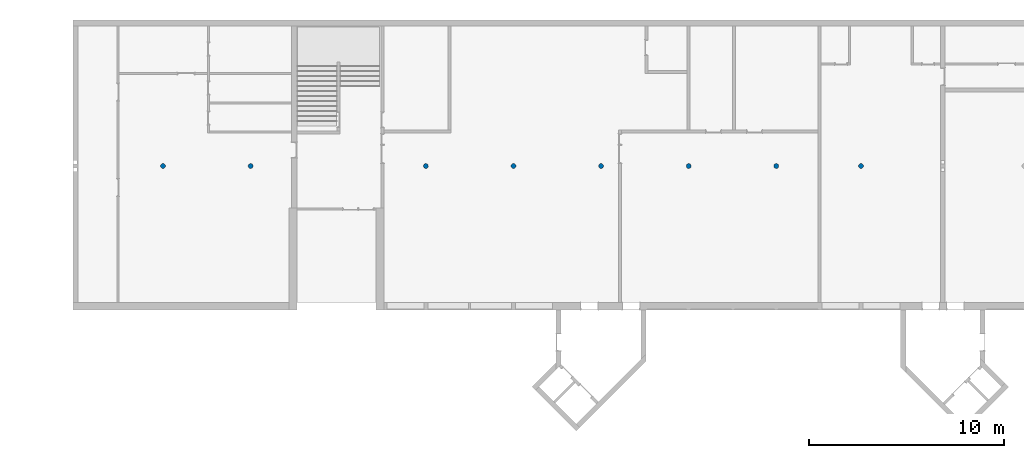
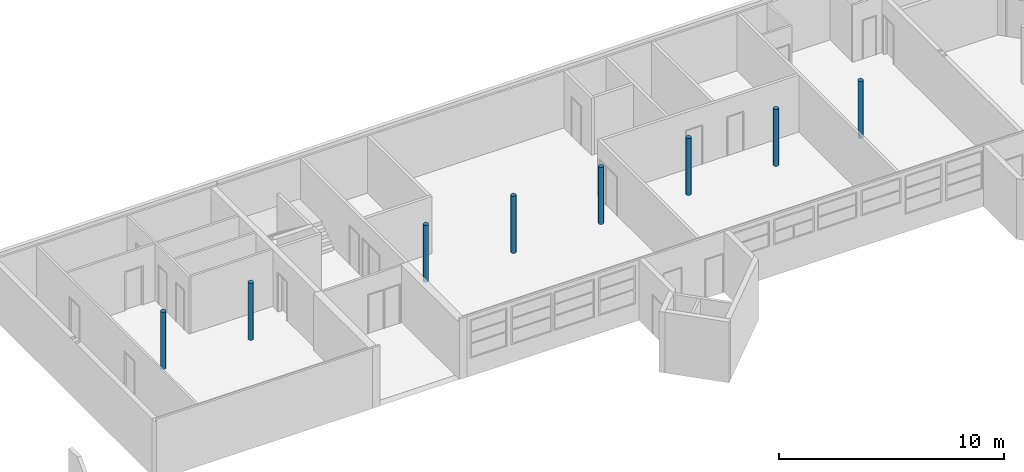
# One storey, part 5 of 25: 8 columns.
"""IFC2X3 building model written with IfcOpenShell, lengths in millimetres."""

import ifcopenshell
import ifcopenshell.guid

model = None  # the IFC model being written
_history = None  # IfcOwnerHistory: only IFC2X3 demands one
_inside = {}  # id of a spatial element -> (the spatial element, [elements in it])
_under = {}  # id of a project, library or spatial element -> (it, [spatial elements below it])
_declared = {}  # id of a project -> (the project, [libraries it declares])
_typed = {}  # id of a type object -> (the type object, [elements of that type])
_made_of = {}  # id of a material, layer set ... -> (it, [elements and type objects made of it])


def new_model(schema):
    """Start an empty IFC model of exactly this schema.

    Asked for "IFC4X3", IfcOpenShell would pick the latest addendum, in which some entities
    have other attributes; the version numbers below select the first issue.
    IFC2X3 requires an IfcOwnerHistory on every rooted entity: one is made here for all.
    """
    global model, _history
    if schema == "IFC4X3":
        model = ifcopenshell.file(schema_version=(4, 3, 0, 0))
    else:
        model = ifcopenshell.file(schema=schema)
    _inside.clear()
    _under.clear()
    _declared.clear()
    _typed.clear()
    _made_of.clear()
    _history = None
    if model.schema == "IFC2X3":
        org = make("IfcOrganization", Name="unknown")
        user = make(
            "IfcPersonAndOrganization",
            ThePerson=make("IfcPerson", FamilyName="unknown"),
            TheOrganization=org,
        )
        app = make(
            "IfcApplication",
            ApplicationDeveloper=org,
            Version="unknown",
            ApplicationFullName="unknown",
            ApplicationIdentifier="unknown",
        )
        _history = make(
            "IfcOwnerHistory",
            OwningUser=user,
            OwningApplication=app,
            ChangeAction="ADDED",
            CreationDate=0,
        )
    return model


def make(cls, **values):
    """One entity of the class cls with the attributes given. An attribute that is None is left unset."""
    return model.create_entity(
        cls, **{name: value for name, value in values.items() if value is not None}
    )


def entity(cls, *values):
    """Any entity or typed value of the class cls, its attributes in the order of the schema. None: left unset."""
    e = model.create_entity(cls)
    for i, value in enumerate(values):
        if value is not None:
            e[i] = value
    return e


def rooted(cls, **values):
    """An entity with a GlobalId (a new one), such as an element, a storey or a relation."""
    return make(cls, GlobalId=ifcopenshell.guid.new(), OwnerHistory=_history, **values)


def si_unit(unit_type, name, prefix=None):
    """IfcSIUnit, for example si_unit("LENGTHUNIT", "METRE", prefix="MILLI")."""
    return make("IfcSIUnit", UnitType=unit_type, Prefix=prefix, Name=name)


def converted_unit(unit_type, name, factor, base, dimensions=None, offset=None):
    """IfcConversionBasedUnit, such as the inch: factor (a typed value) times the base unit."""
    return make(
        "IfcConversionBasedUnit"
        if offset is None
        else "IfcConversionBasedUnitWithOffset",
        ConversionOffset=offset,
        Dimensions=None
        if dimensions is None
        else entity("IfcDimensionalExponents", *dimensions),
        UnitType=unit_type,
        Name=name,
        ConversionFactor=make(
            "IfcMeasureWithUnit", ValueComponent=factor, UnitComponent=base
        ),
    )


def derived_unit(unit_type, elements):
    """IfcDerivedUnit: a product of units, each with its exponent."""
    return make(
        "IfcDerivedUnit",
        Elements=[
            make("IfcDerivedUnitElement", Unit=unit, Exponent=power)
            for unit, power in elements
        ],
        UnitType=unit_type,
    )


def money_unit(currency):
    """IfcMonetaryUnit."""
    return make("IfcMonetaryUnit", Currency=currency)


def assignment(units):
    """IfcUnitAssignment: the units of a project."""
    return None if units is None else make("IfcUnitAssignment", Units=units)


def point(xyz):
    """IfcCartesianPoint."""
    return None if xyz is None else make("IfcCartesianPoint", Coordinates=xyz)


def direction(xyz):
    """IfcDirection."""
    return None if xyz is None else make("IfcDirection", DirectionRatios=xyz)


def frame(location, z_axis=None, x_axis=None):
    """IfcAxis2Placement3D, a coordinate frame: its origin and axes. An axis left out is left unset."""
    return make(
        "IfcAxis2Placement3D",
        Location=point(location),
        Axis=direction(z_axis),
        RefDirection=direction(x_axis),
    )


def origin_with_axes():
    """The frame at (0, 0, 0) with the z axis (0, 0, 1) and the x axis (1, 0, 0) written out."""
    return frame((0.0, 0.0, 0.0), z_axis=(0.0, 0.0, 1.0), x_axis=(1.0, 0.0, 0.0))


def place(relative_to, where):
    """IfcLocalPlacement: puts the frame where relative to a parent placement (None: the world)."""
    return make(
        "IfcLocalPlacement", PlacementRelTo=relative_to, RelativePlacement=where
    )


def context(
    kind, dimensions, precision=None, world=None, true_north=None, identifier=None
):
    """IfcGeometricRepresentationContext, for example the 3D "Model" context."""
    return make(
        "IfcGeometricRepresentationContext",
        ContextIdentifier=identifier,
        ContextType=kind,
        CoordinateSpaceDimension=dimensions,
        Precision=precision,
        WorldCoordinateSystem=world,
        TrueNorth=true_north,
    )


def subcontext(parent, identifier, kind, view, scale=None):
    """IfcGeometricRepresentationSubContext, for example "Body" below "Model"."""
    return make(
        "IfcGeometricRepresentationSubContext",
        ContextIdentifier=identifier,
        ContextType=kind,
        ParentContext=parent,
        TargetScale=scale,
        TargetView=view,
    )


def project(units=None, contexts=None):
    """IfcProject with its units and contexts."""
    return rooted(
        "IfcProject",
        Name="project",
        RepresentationContexts=contexts,
        UnitsInContext=assignment(units),
    )


def spatial(cls, under=None, at=None, **own):
    """A site, building, storey or space (cls), placed at a placement, below another one or the project."""
    s = rooted(cls, ObjectPlacement=at, **own)
    if under is not None:
        _under.setdefault(under.id(), (under, []))[1].append(s)
    return s


def faces_of(points, faces, orient=None, outer=None):
    """IfcFace entities. A face is a list of loops; a loop is a list of indices into points, from 0.

    orient and outer hold one flag for each loop. By default every Orientation is true, the
    first loop of a face is its IfcFaceOuterBound and the others are IfcFaceBound.
    """
    made = []
    for i, loops in enumerate(faces):
        bounds = []
        for j, loop in enumerate(loops):
            is_outer = j == 0 if outer is None else outer[i][j]
            bounds.append(
                make(
                    "IfcFaceOuterBound" if is_outer else "IfcFaceBound",
                    Bound=make("IfcPolyLoop", Polygon=[points[k] for k in loop]),
                    Orientation=True if orient is None else orient[i][j],
                )
            )
        made.append(make("IfcFace", Bounds=bounds))
    return made


def faceted_brep(points, faces, orient=None, outer=None, voids=None):
    """IfcFacetedBrep: a solid bounded by flat faces; with voids (closed shells), ...WithVoids."""
    shared = [point(p) for p in points]
    hull = make("IfcClosedShell", CfsFaces=faces_of(shared, faces, orient, outer))
    if voids is None:
        return make("IfcFacetedBrep", Outer=hull)
    return make(
        "IfcFacetedBrepWithVoids",
        Outer=hull,
        Voids=[
            make(cls, CfsFaces=faces_of(shared, fs, o, b)) for cls, fs, o, b in voids
        ],
    )


def shape(context_of_items, identifier, shape_type, items):
    """IfcShapeRepresentation: the items that make up one representation, for example the "Body"."""
    return make(
        "IfcShapeRepresentation",
        ContextOfItems=context_of_items,
        RepresentationIdentifier=identifier,
        RepresentationType=shape_type,
        Items=items,
    )


def material(Name=None, Category=None):
    """IfcMaterial."""
    return make("IfcMaterial", Name=Name, Category=Category)


def made_of(thing, what):
    """Note that an element or type object is made of a material, layer set ...; save() writes the relation."""
    if what is not None:
        _made_of.setdefault(what.id(), (what, []))[1].append(thing)
    return thing


def type_object(cls, material=None, **own):
    """A type object (cls), such as IfcWallType, which elements share."""
    return made_of(rooted(cls, **own), material)


def element(
    cls,
    number,
    at=None,
    inside=None,
    cuts=None,
    type_object=None,
    material=None,
    context=None,
    identifier="Body",
    shape_type=None,
    held_by="IfcProductDefinitionShape",
    body=None,
    shapes=None,
    **own,
):
    """One element of the class cls, such as IfcWall. Its Tag is "e" and its number.

    at: its placement. inside: the storey or other place that contains it. cuts: it is an
    opening in that element (IfcRelVoidsElement). A single representation is given by context,
    identifier, shape_type and body (its items); several are given by shapes. held_by: the class
    of the entity that holds the representations. save() writes the other relations.
    """
    e = rooted(cls, Tag="e%d" % number, ObjectPlacement=at, **own)
    if body is not None:
        shapes = [shape(context, identifier, shape_type, body)]
    if shapes is not None:
        e.Representation = make(held_by, Representations=shapes)
    if inside is not None:
        _inside.setdefault(inside.id(), (inside, []))[1].append(e)
    if cuts is not None:
        rooted(
            "IfcRelVoidsElement", RelatingBuildingElement=cuts, RelatedOpeningElement=e
        )
    if type_object is not None:
        _typed.setdefault(type_object.id(), (type_object, []))[1].append(e)
    return made_of(e, material)


def aggregate(whole, parts):
    """IfcRelAggregates: a whole, such as a stair, and the parts it consists of."""
    return rooted("IfcRelAggregates", RelatingObject=whole, RelatedObjects=parts)


def save(model, path):
    """Write the relations noted so far, then the file.

    IfcRelAggregates (storeys below a building ...), IfcRelContainedInSpatialStructure (elements
    in a storey), IfcRelDefinesByType, IfcRelAssociatesMaterial and IfcRelDeclares: one each for
    every whole, place, type object, material and project.
    """
    for whole, parts in _under.values():
        aggregate(whole, parts)
    for where, things in _inside.values():
        rooted(
            "IfcRelContainedInSpatialStructure",
            RelatedElements=things,
            RelatingStructure=where,
        )
    for kind, things in _typed.values():
        rooted("IfcRelDefinesByType", RelatedObjects=things, RelatingType=kind)
    for what, things in _made_of.values():
        rooted("IfcRelAssociatesMaterial", RelatedObjects=things, RelatingMaterial=what)
    for by, libraries in _declared.values():
        rooted("IfcRelDeclares", RelatingContext=by, RelatedDefinitions=libraries)
    model.write(path)


model = new_model("IFC2X3")

# Units and contexts
model_context = context("Model", 3, precision=0.01, world=origin_with_axes(), true_north=direction((0.0, 1.0)))
body_context = subcontext(model_context, "Body", "Model", "MODEL_VIEW")
ifc_project = project(units=[si_unit("LENGTHUNIT", "METRE", prefix="MILLI"), si_unit("AREAUNIT", "SQUARE_METRE"), si_unit("VOLUMEUNIT", "CUBIC_METRE"), converted_unit("PLANEANGLEUNIT", "DEGREE", entity("IfcPlaneAngleMeasure", 0.0174532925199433), si_unit("PLANEANGLEUNIT", "RADIAN"), dimensions=[0, 0, 0, 0, 0, 0, 0]), money_unit("USD"), converted_unit("TIMEUNIT", "Year", entity("IfcTimeMeasure", 31557600.0), si_unit("TIMEUNIT", "SECOND"), dimensions=[0, 0, 1, 0, 0, 0, 0]), si_unit("MASSUNIT", "GRAM", prefix="KILO"), si_unit("THERMODYNAMICTEMPERATUREUNIT", "DEGREE_CELSIUS"), si_unit("LUMINOUSINTENSITYUNIT", "LUMEN"), si_unit("ENERGYUNIT", "JOULE", prefix="MEGA"), derived_unit("THERMALCONDUCTANCEUNIT", [(si_unit("POWERUNIT", "WATT"), 1), (si_unit("LENGTHUNIT", "METRE"), -1), (si_unit("THERMODYNAMICTEMPERATUREUNIT", "KELVIN"), -1)]), derived_unit("SPECIFICHEATCAPACITYUNIT", [(si_unit("ENERGYUNIT", "JOULE"), 1), (si_unit("MASSUNIT", "GRAM", prefix="KILO"), -1), (si_unit("THERMODYNAMICTEMPERATUREUNIT", "KELVIN"), -1)]), derived_unit("MASSDENSITYUNIT", [(si_unit("MASSUNIT", "GRAM", prefix="KILO"), 1), (si_unit("VOLUMEUNIT", "CUBIC_METRE"), -1)])], contexts=[model_context])

# Site, building, storey
site_placement = place(None, origin_with_axes())
site = spatial("IfcSite", under=ifc_project, at=site_placement, Name="Site", CompositionType="ELEMENT")
building_placement = place(site_placement, origin_with_axes())
building = spatial("IfcBuilding", under=site, at=building_placement, Name="Building", CompositionType="ELEMENT")
storey_placement = place(building_placement, origin_with_axes())
storey = spatial("IfcBuildingStorey", under=building, at=storey_placement, Name="U ETG", CompositionType="ELEMENT", Elevation=0.0)

# Columns
ifc_material = material(Name="GENERIC - STRUCTURAL")
column_type = type_object("IfcColumnType", Name="GENERIC - STRUCTURAL D250", PredefinedType="COLUMN")
column_1_placement = place(storey_placement, frame((49349.99999999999, 14500.0, 0.0), z_axis=(0.0, 0.0, 1.0), x_axis=(1.0, 0.0, 0.0)))
element("IfcColumn", 1, at=column_1_placement, inside=storey, type_object=column_type, material=ifc_material, Name="CRE - 001", ObjectType="COLUMN", context=body_context, shape_type="Brep", body=[
    faceted_brep([(-121.86598902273, -27.81511674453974, 3100.0), (-125.0, 0.0, 3100.0), (-125.0, 0.0, 0.0), (-121.86598902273, -27.81511674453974, 0.0), (-112.6211084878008, 54.2354673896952, 3100.0), (-121.86598902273, 27.81511674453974, 3100.0), (-112.6211084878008, -54.2354673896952, 3100.0), (-97.72893530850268, -77.93622523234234, 3100.0), (-77.93622523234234, -97.72893530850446, 3100.0), (-54.2354673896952, -112.6211084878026, 3100.0), (-27.81511674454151, -121.8659890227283, 3100.0), (0.0, -125.0, 3100.0), (27.81511674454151, -121.8659890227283, 3100.0), (54.2354673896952, -112.6211084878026, 3100.0), (77.93622523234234, -97.72893530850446, 3100.0), (97.72893530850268, -77.93622523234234, 3100.0), (112.6211084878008, -54.2354673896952, 3100.0), (121.86598902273, -27.81511674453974, 3100.0), (125.0, 0.0, 3100.0), (121.86598902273, 27.81511674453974, 3100.0), (112.6211084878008, 54.2354673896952, 3100.0), (97.72893530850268, 77.93622523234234, 3100.0), (77.93622523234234, 97.72893530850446, 3100.0), (54.2354673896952, 112.6211084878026, 3100.0), (27.81511674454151, 121.8659890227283, 3100.0), (0.0, 125.0, 3100.0), (-27.81511674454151, 121.8659890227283, 3100.0), (-54.2354673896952, 112.6211084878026, 3100.0), (-77.93622523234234, 97.72893530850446, 3100.0), (-97.72893530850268, 77.93622523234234, 3100.0), (-121.86598902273, 27.81511674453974, 0.0), (-112.6211084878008, -54.2354673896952, 0.0), (-112.6211084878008, 54.2354673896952, 0.0), (-97.72893530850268, 77.93622523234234, 0.0), (-77.93622523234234, 97.72893530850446, 0.0), (-54.2354673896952, 112.6211084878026, 0.0), (-27.81511674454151, 121.8659890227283, 0.0), (0.0, 125.0, 0.0), (27.81511674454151, 121.8659890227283, 0.0), (54.2354673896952, 112.6211084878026, 0.0), (77.93622523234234, 97.72893530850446, 0.0), (97.72893530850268, 77.93622523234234, 0.0), (112.6211084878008, 54.2354673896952, 0.0), (121.86598902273, 27.81511674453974, 0.0), (125.0, 0.0, 0.0), (121.86598902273, -27.81511674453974, 0.0), (112.6211084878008, -54.2354673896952, 0.0), (97.72893530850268, -77.93622523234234, 0.0), (77.93622523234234, -97.72893530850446, 0.0), (54.2354673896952, -112.6211084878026, 0.0), (27.81511674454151, -121.8659890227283, 0.0), (0.0, -125.0, 0.0), (-27.81511674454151, -121.8659890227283, 0.0), (-54.2354673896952, -112.6211084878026, 0.0), (-77.93622523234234, -97.72893530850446, 0.0), (-97.72893530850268, -77.93622523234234, 0.0)], [[[0, 1, 2, 3]], [[4, 5, 1, 0, 6, 7, 8, 9, 10, 11, 12, 13, 14, 15, 16, 17, 18, 19, 20, 21, 22, 23, 24, 25, 26, 27, 28, 29]], [[1, 5, 30, 2]], [[31, 3, 2, 30, 32, 33, 34, 35, 36, 37, 38, 39, 40, 41, 42, 43, 44, 45, 46, 47, 48, 49, 50, 51, 52, 53, 54, 55]], [[6, 0, 3, 31]], [[5, 4, 32, 30]], [[7, 6, 31, 55]], [[8, 7, 55, 54]], [[9, 8, 54, 53]], [[10, 9, 53, 52]], [[11, 10, 52, 51]], [[12, 11, 51, 50]], [[13, 12, 50, 49]], [[14, 13, 49, 48]], [[15, 14, 48, 47]], [[16, 15, 47, 46]], [[17, 16, 46, 45]], [[18, 17, 45, 44]], [[19, 18, 44, 43]], [[20, 19, 43, 42]], [[21, 20, 42, 41]], [[22, 21, 41, 40]], [[23, 22, 40, 39]], [[24, 23, 39, 38]], [[25, 24, 38, 37]], [[26, 25, 37, 36]], [[27, 26, 36, 35]], [[28, 27, 35, 34]], [[29, 28, 34, 33]], [[4, 29, 33, 32]]]),
])
column_2_placement = place(storey_placement, frame((44999.99999999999, 14500.0, 0.0), z_axis=(0.0, 0.0, 1.0), x_axis=(1.0, 0.0, 0.0)))
element("IfcColumn", 2, at=column_2_placement, inside=storey, type_object=column_type, material=ifc_material, Name="CRE - 001", ObjectType="COLUMN", context=body_context, shape_type="Brep", body=[
    faceted_brep([(-121.86598902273, -27.81511674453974, 3100.0), (-125.0, 0.0, 3100.0), (-125.0, 0.0, 0.0), (-121.86598902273, -27.81511674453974, 0.0), (-112.6211084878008, 54.2354673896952, 3100.0), (-121.86598902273, 27.81511674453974, 3100.0), (-112.6211084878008, -54.2354673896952, 3100.0), (-97.72893530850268, -77.93622523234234, 3100.0), (-77.93622523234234, -97.72893530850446, 3100.0), (-54.2354673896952, -112.6211084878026, 3100.0), (-27.81511674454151, -121.8659890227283, 3100.0), (0.0, -125.0, 3100.0), (27.81511674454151, -121.8659890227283, 3100.0), (54.2354673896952, -112.6211084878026, 3100.0), (77.93622523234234, -97.72893530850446, 3100.0), (97.72893530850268, -77.93622523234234, 3100.0), (112.6211084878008, -54.2354673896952, 3100.0), (121.86598902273, -27.81511674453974, 3100.0), (125.0, 0.0, 3100.0), (121.86598902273, 27.81511674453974, 3100.0), (112.6211084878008, 54.2354673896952, 3100.0), (97.72893530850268, 77.93622523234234, 3100.0), (77.93622523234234, 97.72893530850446, 3100.0), (54.2354673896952, 112.6211084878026, 3100.0), (27.81511674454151, 121.8659890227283, 3100.0), (0.0, 125.0, 3100.0), (-27.81511674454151, 121.8659890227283, 3100.0), (-54.2354673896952, 112.6211084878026, 3100.0), (-77.93622523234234, 97.72893530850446, 3100.0), (-97.72893530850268, 77.93622523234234, 3100.0), (-121.86598902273, 27.81511674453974, 0.0), (-112.6211084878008, -54.2354673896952, 0.0), (-112.6211084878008, 54.2354673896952, 0.0), (-97.72893530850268, 77.93622523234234, 0.0), (-77.93622523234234, 97.72893530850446, 0.0), (-54.2354673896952, 112.6211084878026, 0.0), (-27.81511674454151, 121.8659890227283, 0.0), (0.0, 125.0, 0.0), (27.81511674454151, 121.8659890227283, 0.0), (54.2354673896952, 112.6211084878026, 0.0), (77.93622523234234, 97.72893530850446, 0.0), (97.72893530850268, 77.93622523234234, 0.0), (112.6211084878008, 54.2354673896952, 0.0), (121.86598902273, 27.81511674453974, 0.0), (125.0, 0.0, 0.0), (121.86598902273, -27.81511674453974, 0.0), (112.6211084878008, -54.2354673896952, 0.0), (97.72893530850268, -77.93622523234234, 0.0), (77.93622523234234, -97.72893530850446, 0.0), (54.2354673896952, -112.6211084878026, 0.0), (27.81511674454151, -121.8659890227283, 0.0), (0.0, -125.0, 0.0), (-27.81511674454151, -121.8659890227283, 0.0), (-54.2354673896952, -112.6211084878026, 0.0), (-77.93622523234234, -97.72893530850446, 0.0), (-97.72893530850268, -77.93622523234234, 0.0)], [[[0, 1, 2, 3]], [[4, 5, 1, 0, 6, 7, 8, 9, 10, 11, 12, 13, 14, 15, 16, 17, 18, 19, 20, 21, 22, 23, 24, 25, 26, 27, 28, 29]], [[1, 5, 30, 2]], [[31, 3, 2, 30, 32, 33, 34, 35, 36, 37, 38, 39, 40, 41, 42, 43, 44, 45, 46, 47, 48, 49, 50, 51, 52, 53, 54, 55]], [[6, 0, 3, 31]], [[5, 4, 32, 30]], [[7, 6, 31, 55]], [[8, 7, 55, 54]], [[9, 8, 54, 53]], [[10, 9, 53, 52]], [[11, 10, 52, 51]], [[12, 11, 51, 50]], [[13, 12, 50, 49]], [[14, 13, 49, 48]], [[15, 14, 48, 47]], [[16, 15, 47, 46]], [[17, 16, 46, 45]], [[18, 17, 45, 44]], [[19, 18, 44, 43]], [[20, 19, 43, 42]], [[21, 20, 42, 41]], [[22, 21, 41, 40]], [[23, 22, 40, 39]], [[24, 23, 39, 38]], [[25, 24, 38, 37]], [[26, 25, 37, 36]], [[27, 26, 36, 35]], [[28, 27, 35, 34]], [[29, 28, 34, 33]], [[4, 29, 33, 32]]]),
])
column_3_placement = place(storey_placement, frame((40500.0, 14500.0, 0.0), z_axis=(0.0, 0.0, 1.0), x_axis=(1.0, 0.0, 0.0)))
element("IfcColumn", 3, at=column_3_placement, inside=storey, type_object=column_type, material=ifc_material, Name="CRE - 001", ObjectType="COLUMN", context=body_context, shape_type="Brep", body=[
    faceted_brep([(-121.86598902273, -27.81511674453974, 3100.0), (-125.0, 0.0, 3100.0), (-125.0, 0.0, 0.0), (-121.86598902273, -27.81511674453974, 0.0), (-112.6211084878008, 54.2354673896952, 3100.0), (-121.86598902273, 27.81511674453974, 3100.0), (-112.6211084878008, -54.2354673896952, 3100.0), (-97.72893530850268, -77.93622523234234, 3100.0), (-77.93622523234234, -97.72893530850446, 3100.0), (-54.2354673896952, -112.6211084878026, 3100.0), (-27.81511674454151, -121.8659890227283, 3100.0), (0.0, -125.0, 3100.0), (27.81511674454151, -121.8659890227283, 3100.0), (54.2354673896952, -112.6211084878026, 3100.0), (77.93622523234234, -97.72893530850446, 3100.0), (97.72893530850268, -77.93622523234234, 3100.0), (112.6211084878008, -54.2354673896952, 3100.0), (121.86598902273, -27.81511674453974, 3100.0), (125.0, 0.0, 3100.0), (121.86598902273, 27.81511674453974, 3100.0), (112.6211084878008, 54.2354673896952, 3100.0), (97.72893530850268, 77.93622523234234, 3100.0), (77.93622523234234, 97.72893530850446, 3100.0), (54.2354673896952, 112.6211084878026, 3100.0), (27.81511674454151, 121.8659890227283, 3100.0), (0.0, 125.0, 3100.0), (-27.81511674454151, 121.8659890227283, 3100.0), (-54.2354673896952, 112.6211084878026, 3100.0), (-77.93622523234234, 97.72893530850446, 3100.0), (-97.72893530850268, 77.93622523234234, 3100.0), (-121.86598902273, 27.81511674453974, 0.0), (-112.6211084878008, -54.2354673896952, 0.0), (-112.6211084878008, 54.2354673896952, 0.0), (-97.72893530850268, 77.93622523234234, 0.0), (-77.93622523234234, 97.72893530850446, 0.0), (-54.2354673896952, 112.6211084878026, 0.0), (-27.81511674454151, 121.8659890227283, 0.0), (0.0, 125.0, 0.0), (27.81511674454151, 121.8659890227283, 0.0), (54.2354673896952, 112.6211084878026, 0.0), (77.93622523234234, 97.72893530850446, 0.0), (97.72893530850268, 77.93622523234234, 0.0), (112.6211084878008, 54.2354673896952, 0.0), (121.86598902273, 27.81511674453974, 0.0), (125.0, 0.0, 0.0), (121.86598902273, -27.81511674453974, 0.0), (112.6211084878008, -54.2354673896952, 0.0), (97.72893530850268, -77.93622523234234, 0.0), (77.93622523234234, -97.72893530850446, 0.0), (54.2354673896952, -112.6211084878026, 0.0), (27.81511674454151, -121.8659890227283, 0.0), (0.0, -125.0, 0.0), (-27.81511674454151, -121.8659890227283, 0.0), (-54.2354673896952, -112.6211084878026, 0.0), (-77.93622523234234, -97.72893530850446, 0.0), (-97.72893530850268, -77.93622523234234, 0.0)], [[[0, 1, 2, 3]], [[4, 5, 1, 0, 6, 7, 8, 9, 10, 11, 12, 13, 14, 15, 16, 17, 18, 19, 20, 21, 22, 23, 24, 25, 26, 27, 28, 29]], [[1, 5, 30, 2]], [[31, 3, 2, 30, 32, 33, 34, 35, 36, 37, 38, 39, 40, 41, 42, 43, 44, 45, 46, 47, 48, 49, 50, 51, 52, 53, 54, 55]], [[6, 0, 3, 31]], [[5, 4, 32, 30]], [[7, 6, 31, 55]], [[8, 7, 55, 54]], [[9, 8, 54, 53]], [[10, 9, 53, 52]], [[11, 10, 52, 51]], [[12, 11, 51, 50]], [[13, 12, 50, 49]], [[14, 13, 49, 48]], [[15, 14, 48, 47]], [[16, 15, 47, 46]], [[17, 16, 46, 45]], [[18, 17, 45, 44]], [[19, 18, 44, 43]], [[20, 19, 43, 42]], [[21, 20, 42, 41]], [[22, 21, 41, 40]], [[23, 22, 40, 39]], [[24, 23, 39, 38]], [[25, 24, 38, 37]], [[26, 25, 37, 36]], [[27, 26, 36, 35]], [[28, 27, 35, 34]], [[29, 28, 34, 33]], [[4, 29, 33, 32]]]),
])
column_4_placement = place(storey_placement, frame((36000.0, 14500.0, 0.0), z_axis=(0.0, 0.0, 1.0), x_axis=(1.0, 0.0, 0.0)))
element("IfcColumn", 4, at=column_4_placement, inside=storey, type_object=column_type, material=ifc_material, Name="CRE - 001", ObjectType="COLUMN", context=body_context, shape_type="Brep", body=[
    faceted_brep([(-121.86598902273, -27.81511674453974, 3100.0), (-125.0, 0.0, 3100.0), (-125.0, 0.0, 0.0), (-121.86598902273, -27.81511674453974, 0.0), (-112.6211084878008, 54.2354673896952, 3100.0), (-121.86598902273, 27.81511674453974, 3100.0), (-112.6211084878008, -54.2354673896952, 3100.0), (-97.72893530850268, -77.93622523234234, 3100.0), (-77.93622523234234, -97.72893530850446, 3100.0), (-54.2354673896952, -112.6211084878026, 3100.0), (-27.81511674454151, -121.8659890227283, 3100.0), (0.0, -125.0, 3100.0), (27.81511674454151, -121.8659890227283, 3100.0), (54.2354673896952, -112.6211084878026, 3100.0), (77.93622523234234, -97.72893530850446, 3100.0), (97.72893530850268, -77.93622523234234, 3100.0), (112.6211084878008, -54.2354673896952, 3100.0), (121.86598902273, -27.81511674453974, 3100.0), (125.0, 0.0, 3100.0), (121.86598902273, 27.81511674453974, 3100.0), (112.6211084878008, 54.2354673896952, 3100.0), (97.72893530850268, 77.93622523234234, 3100.0), (77.93622523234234, 97.72893530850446, 3100.0), (54.2354673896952, 112.6211084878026, 3100.0), (27.81511674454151, 121.8659890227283, 3100.0), (0.0, 125.0, 3100.0), (-27.81511674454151, 121.8659890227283, 3100.0), (-54.2354673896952, 112.6211084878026, 3100.0), (-77.93622523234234, 97.72893530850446, 3100.0), (-97.72893530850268, 77.93622523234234, 3100.0), (-121.86598902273, 27.81511674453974, 0.0), (-112.6211084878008, -54.2354673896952, 0.0), (-112.6211084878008, 54.2354673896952, 0.0), (-97.72893530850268, 77.93622523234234, 0.0), (-77.93622523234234, 97.72893530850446, 0.0), (-54.2354673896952, 112.6211084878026, 0.0), (-27.81511674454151, 121.8659890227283, 0.0), (0.0, 125.0, 0.0), (27.81511674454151, 121.8659890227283, 0.0), (54.2354673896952, 112.6211084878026, 0.0), (77.93622523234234, 97.72893530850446, 0.0), (97.72893530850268, 77.93622523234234, 0.0), (112.6211084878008, 54.2354673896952, 0.0), (121.86598902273, 27.81511674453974, 0.0), (125.0, 0.0, 0.0), (121.86598902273, -27.81511674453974, 0.0), (112.6211084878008, -54.2354673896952, 0.0), (97.72893530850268, -77.93622523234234, 0.0), (77.93622523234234, -97.72893530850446, 0.0), (54.2354673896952, -112.6211084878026, 0.0), (27.81511674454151, -121.8659890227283, 0.0), (0.0, -125.0, 0.0), (-27.81511674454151, -121.8659890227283, 0.0), (-54.2354673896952, -112.6211084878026, 0.0), (-77.93622523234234, -97.72893530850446, 0.0), (-97.72893530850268, -77.93622523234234, 0.0)], [[[0, 1, 2, 3]], [[4, 5, 1, 0, 6, 7, 8, 9, 10, 11, 12, 13, 14, 15, 16, 17, 18, 19, 20, 21, 22, 23, 24, 25, 26, 27, 28, 29]], [[1, 5, 30, 2]], [[31, 3, 2, 30, 32, 33, 34, 35, 36, 37, 38, 39, 40, 41, 42, 43, 44, 45, 46, 47, 48, 49, 50, 51, 52, 53, 54, 55]], [[6, 0, 3, 31]], [[5, 4, 32, 30]], [[7, 6, 31, 55]], [[8, 7, 55, 54]], [[9, 8, 54, 53]], [[10, 9, 53, 52]], [[11, 10, 52, 51]], [[12, 11, 51, 50]], [[13, 12, 50, 49]], [[14, 13, 49, 48]], [[15, 14, 48, 47]], [[16, 15, 47, 46]], [[17, 16, 46, 45]], [[18, 17, 45, 44]], [[19, 18, 44, 43]], [[20, 19, 43, 42]], [[21, 20, 42, 41]], [[22, 21, 41, 40]], [[23, 22, 40, 39]], [[24, 23, 39, 38]], [[25, 24, 38, 37]], [[26, 25, 37, 36]], [[27, 26, 36, 35]], [[28, 27, 35, 34]], [[29, 28, 34, 33]], [[4, 29, 33, 32]]]),
])
column_5_placement = place(storey_placement, frame((31500.0, 14500.0, 0.0), z_axis=(0.0, 0.0, 1.0), x_axis=(1.0, 0.0, 0.0)))
element("IfcColumn", 5, at=column_5_placement, inside=storey, type_object=column_type, material=ifc_material, Name="CRE - 001", ObjectType="COLUMN", context=body_context, shape_type="Brep", body=[
    faceted_brep([(-121.8659890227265, -27.81511674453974, 3100.0), (-125.0, 0.0, 3100.0), (-125.0, 0.0, 0.0), (-121.8659890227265, -27.81511674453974, 0.0), (-112.6211084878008, 54.2354673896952, 3100.0), (-121.8659890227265, 27.81511674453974, 3100.0), (-112.6211084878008, -54.2354673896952, 3100.0), (-97.72893530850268, -77.93622523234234, 3100.0), (-77.93622523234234, -97.72893530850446, 3100.0), (-54.2354673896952, -112.6211084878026, 3100.0), (-27.81511674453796, -121.8659890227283, 3100.0), (0.0, -125.0, 3100.0), (27.81511674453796, -121.8659890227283, 3100.0), (54.2354673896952, -112.6211084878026, 3100.0), (77.93622523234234, -97.72893530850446, 3100.0), (97.72893530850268, -77.93622523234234, 3100.0), (112.6211084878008, -54.2354673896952, 3100.0), (121.8659890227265, -27.81511674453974, 3100.0), (125.0, 0.0, 3100.0), (121.8659890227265, 27.81511674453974, 3100.0), (112.6211084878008, 54.2354673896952, 3100.0), (97.72893530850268, 77.93622523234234, 3100.0), (77.93622523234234, 97.72893530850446, 3100.0), (54.2354673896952, 112.6211084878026, 3100.0), (27.81511674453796, 121.8659890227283, 3100.0), (0.0, 125.0, 3100.0), (-27.81511674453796, 121.8659890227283, 3100.0), (-54.2354673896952, 112.6211084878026, 3100.0), (-77.93622523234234, 97.72893530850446, 3100.0), (-97.72893530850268, 77.93622523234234, 3100.0), (-121.8659890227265, 27.81511674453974, 0.0), (-112.6211084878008, -54.2354673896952, 0.0), (-112.6211084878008, 54.2354673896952, 0.0), (-97.72893530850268, 77.93622523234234, 0.0), (-77.93622523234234, 97.72893530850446, 0.0), (-54.2354673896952, 112.6211084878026, 0.0), (-27.81511674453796, 121.8659890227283, 0.0), (0.0, 125.0, 0.0), (27.81511674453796, 121.8659890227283, 0.0), (54.2354673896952, 112.6211084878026, 0.0), (77.93622523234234, 97.72893530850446, 0.0), (97.72893530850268, 77.93622523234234, 0.0), (112.6211084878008, 54.2354673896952, 0.0), (121.8659890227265, 27.81511674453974, 0.0), (125.0, 0.0, 0.0), (121.8659890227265, -27.81511674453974, 0.0), (112.6211084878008, -54.2354673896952, 0.0), (97.72893530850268, -77.93622523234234, 0.0), (77.93622523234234, -97.72893530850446, 0.0), (54.2354673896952, -112.6211084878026, 0.0), (27.81511674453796, -121.8659890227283, 0.0), (0.0, -125.0, 0.0), (-27.81511674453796, -121.8659890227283, 0.0), (-54.2354673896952, -112.6211084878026, 0.0), (-77.93622523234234, -97.72893530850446, 0.0), (-97.72893530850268, -77.93622523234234, 0.0)], [[[0, 1, 2, 3]], [[4, 5, 1, 0, 6, 7, 8, 9, 10, 11, 12, 13, 14, 15, 16, 17, 18, 19, 20, 21, 22, 23, 24, 25, 26, 27, 28, 29]], [[1, 5, 30, 2]], [[31, 3, 2, 30, 32, 33, 34, 35, 36, 37, 38, 39, 40, 41, 42, 43, 44, 45, 46, 47, 48, 49, 50, 51, 52, 53, 54, 55]], [[6, 0, 3, 31]], [[5, 4, 32, 30]], [[7, 6, 31, 55]], [[8, 7, 55, 54]], [[9, 8, 54, 53]], [[10, 9, 53, 52]], [[11, 10, 52, 51]], [[12, 11, 51, 50]], [[13, 12, 50, 49]], [[14, 13, 49, 48]], [[15, 14, 48, 47]], [[16, 15, 47, 46]], [[17, 16, 46, 45]], [[18, 17, 45, 44]], [[19, 18, 44, 43]], [[20, 19, 43, 42]], [[21, 20, 42, 41]], [[22, 21, 41, 40]], [[23, 22, 40, 39]], [[24, 23, 39, 38]], [[25, 24, 38, 37]], [[26, 25, 37, 36]], [[27, 26, 36, 35]], [[28, 27, 35, 34]], [[29, 28, 34, 33]], [[4, 29, 33, 32]]]),
])
column_6_placement = place(storey_placement, frame((27000.0, 14500.0, 0.0), z_axis=(0.0, 0.0, 1.0), x_axis=(1.0, 0.0, 0.0)))
element("IfcColumn", 6, at=column_6_placement, inside=storey, type_object=column_type, material=ifc_material, Name="CRE - 001", ObjectType="COLUMN", context=body_context, shape_type="Brep", body=[
    faceted_brep([(-121.8659890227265, -27.81511674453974, 3100.0), (-125.0, 0.0, 3100.0), (-125.0, 0.0, 0.0), (-121.8659890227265, -27.81511674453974, 0.0), (-112.6211084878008, 54.2354673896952, 3100.0), (-121.8659890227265, 27.81511674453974, 3100.0), (-112.6211084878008, -54.2354673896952, 3100.0), (-97.72893530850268, -77.93622523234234, 3100.0), (-77.93622523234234, -97.72893530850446, 3100.0), (-54.2354673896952, -112.6211084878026, 3100.0), (-27.81511674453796, -121.8659890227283, 3100.0), (0.0, -125.0, 3100.0), (27.81511674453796, -121.8659890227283, 3100.0), (54.2354673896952, -112.6211084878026, 3100.0), (77.93622523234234, -97.72893530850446, 3100.0), (97.72893530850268, -77.93622523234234, 3100.0), (112.6211084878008, -54.2354673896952, 3100.0), (121.8659890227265, -27.81511674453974, 3100.0), (125.0, 0.0, 3100.0), (121.8659890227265, 27.81511674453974, 3100.0), (112.6211084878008, 54.2354673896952, 3100.0), (97.72893530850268, 77.93622523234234, 3100.0), (77.93622523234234, 97.72893530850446, 3100.0), (54.2354673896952, 112.6211084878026, 3100.0), (27.81511674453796, 121.8659890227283, 3100.0), (0.0, 125.0, 3100.0), (-27.81511674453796, 121.8659890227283, 3100.0), (-54.2354673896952, 112.6211084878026, 3100.0), (-77.93622523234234, 97.72893530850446, 3100.0), (-97.72893530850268, 77.93622523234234, 3100.0), (-121.8659890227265, 27.81511674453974, 0.0), (-112.6211084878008, -54.2354673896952, 0.0), (-112.6211084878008, 54.2354673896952, 0.0), (-97.72893530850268, 77.93622523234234, 0.0), (-77.93622523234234, 97.72893530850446, 0.0), (-54.2354673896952, 112.6211084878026, 0.0), (-27.81511674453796, 121.8659890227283, 0.0), (0.0, 125.0, 0.0), (27.81511674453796, 121.8659890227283, 0.0), (54.2354673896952, 112.6211084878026, 0.0), (77.93622523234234, 97.72893530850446, 0.0), (97.72893530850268, 77.93622523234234, 0.0), (112.6211084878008, 54.2354673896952, 0.0), (121.8659890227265, 27.81511674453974, 0.0), (125.0, 0.0, 0.0), (121.8659890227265, -27.81511674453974, 0.0), (112.6211084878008, -54.2354673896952, 0.0), (97.72893530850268, -77.93622523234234, 0.0), (77.93622523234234, -97.72893530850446, 0.0), (54.2354673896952, -112.6211084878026, 0.0), (27.81511674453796, -121.8659890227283, 0.0), (0.0, -125.0, 0.0), (-27.81511674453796, -121.8659890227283, 0.0), (-54.2354673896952, -112.6211084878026, 0.0), (-77.93622523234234, -97.72893530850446, 0.0), (-97.72893530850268, -77.93622523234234, 0.0)], [[[0, 1, 2, 3]], [[4, 5, 1, 0, 6, 7, 8, 9, 10, 11, 12, 13, 14, 15, 16, 17, 18, 19, 20, 21, 22, 23, 24, 25, 26, 27, 28, 29]], [[1, 5, 30, 2]], [[31, 3, 2, 30, 32, 33, 34, 35, 36, 37, 38, 39, 40, 41, 42, 43, 44, 45, 46, 47, 48, 49, 50, 51, 52, 53, 54, 55]], [[6, 0, 3, 31]], [[5, 4, 32, 30]], [[7, 6, 31, 55]], [[8, 7, 55, 54]], [[9, 8, 54, 53]], [[10, 9, 53, 52]], [[11, 10, 52, 51]], [[12, 11, 51, 50]], [[13, 12, 50, 49]], [[14, 13, 49, 48]], [[15, 14, 48, 47]], [[16, 15, 47, 46]], [[17, 16, 46, 45]], [[18, 17, 45, 44]], [[19, 18, 44, 43]], [[20, 19, 43, 42]], [[21, 20, 42, 41]], [[22, 21, 41, 40]], [[23, 22, 40, 39]], [[24, 23, 39, 38]], [[25, 24, 38, 37]], [[26, 25, 37, 36]], [[27, 26, 36, 35]], [[28, 27, 35, 34]], [[29, 28, 34, 33]], [[4, 29, 33, 32]]]),
])
column_7_placement = place(storey_placement, frame((18000.00000000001, 14500.0, 0.0), z_axis=(0.0, 0.0, 1.0), x_axis=(1.0, 0.0, 0.0)))
element("IfcColumn", 7, at=column_7_placement, inside=storey, type_object=column_type, material=ifc_material, Name="CRE - 001", ObjectType="COLUMN", context=body_context, shape_type="Brep", body=[
    faceted_brep([(-121.8659890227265, -27.81511674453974, 3100.0), (-125.0, 0.0, 3100.0), (-125.0, 0.0, 0.0), (-121.8659890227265, -27.81511674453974, 0.0), (-112.6211084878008, 54.2354673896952, 3100.0), (-121.8659890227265, 27.81511674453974, 3100.0), (-112.6211084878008, -54.2354673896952, 3100.0), (-97.72893530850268, -77.93622523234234, 3100.0), (-77.93622523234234, -97.72893530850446, 3100.0), (-54.2354673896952, -112.6211084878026, 3100.0), (-27.81511674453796, -121.8659890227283, 3100.0), (0.0, -125.0, 3100.0), (27.81511674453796, -121.8659890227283, 3100.0), (54.2354673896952, -112.6211084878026, 3100.0), (77.93622523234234, -97.72893530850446, 3100.0), (97.72893530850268, -77.93622523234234, 3100.0), (112.6211084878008, -54.2354673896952, 3100.0), (121.8659890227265, -27.81511674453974, 3100.0), (125.0, 0.0, 3100.0), (121.8659890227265, 27.81511674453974, 3100.0), (112.6211084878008, 54.2354673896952, 3100.0), (97.72893530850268, 77.93622523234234, 3100.0), (77.93622523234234, 97.72893530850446, 3100.0), (54.2354673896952, 112.6211084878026, 3100.0), (27.81511674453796, 121.8659890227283, 3100.0), (0.0, 125.0, 3100.0), (-27.81511674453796, 121.8659890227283, 3100.0), (-54.2354673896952, 112.6211084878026, 3100.0), (-77.93622523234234, 97.72893530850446, 3100.0), (-97.72893530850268, 77.93622523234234, 3100.0), (-121.8659890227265, 27.81511674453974, 0.0), (-112.6211084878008, -54.2354673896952, 0.0), (-112.6211084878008, 54.2354673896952, 0.0), (-97.72893530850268, 77.93622523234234, 0.0), (-77.93622523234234, 97.72893530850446, 0.0), (-54.2354673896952, 112.6211084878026, 0.0), (-27.81511674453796, 121.8659890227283, 0.0), (0.0, 125.0, 0.0), (27.81511674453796, 121.8659890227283, 0.0), (54.2354673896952, 112.6211084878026, 0.0), (77.93622523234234, 97.72893530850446, 0.0), (97.72893530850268, 77.93622523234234, 0.0), (112.6211084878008, 54.2354673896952, 0.0), (121.8659890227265, 27.81511674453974, 0.0), (125.0, 0.0, 0.0), (121.8659890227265, -27.81511674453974, 0.0), (112.6211084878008, -54.2354673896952, 0.0), (97.72893530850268, -77.93622523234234, 0.0), (77.93622523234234, -97.72893530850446, 0.0), (54.2354673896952, -112.6211084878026, 0.0), (27.81511674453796, -121.8659890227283, 0.0), (0.0, -125.0, 0.0), (-27.81511674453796, -121.8659890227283, 0.0), (-54.2354673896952, -112.6211084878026, 0.0), (-77.93622523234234, -97.72893530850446, 0.0), (-97.72893530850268, -77.93622523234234, 0.0)], [[[0, 1, 2, 3]], [[4, 5, 1, 0, 6, 7, 8, 9, 10, 11, 12, 13, 14, 15, 16, 17, 18, 19, 20, 21, 22, 23, 24, 25, 26, 27, 28, 29]], [[1, 5, 30, 2]], [[31, 3, 2, 30, 32, 33, 34, 35, 36, 37, 38, 39, 40, 41, 42, 43, 44, 45, 46, 47, 48, 49, 50, 51, 52, 53, 54, 55]], [[6, 0, 3, 31]], [[5, 4, 32, 30]], [[7, 6, 31, 55]], [[8, 7, 55, 54]], [[9, 8, 54, 53]], [[10, 9, 53, 52]], [[11, 10, 52, 51]], [[12, 11, 51, 50]], [[13, 12, 50, 49]], [[14, 13, 49, 48]], [[15, 14, 48, 47]], [[16, 15, 47, 46]], [[17, 16, 46, 45]], [[18, 17, 45, 44]], [[19, 18, 44, 43]], [[20, 19, 43, 42]], [[21, 20, 42, 41]], [[22, 21, 41, 40]], [[23, 22, 40, 39]], [[24, 23, 39, 38]], [[25, 24, 38, 37]], [[26, 25, 37, 36]], [[27, 26, 36, 35]], [[28, 27, 35, 34]], [[29, 28, 34, 33]], [[4, 29, 33, 32]]]),
])
column_8_placement = place(storey_placement, frame((13500.00000000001, 14500.0, 0.0), z_axis=(0.0, 0.0, 1.0), x_axis=(1.0, 0.0, 0.0)))
element("IfcColumn", 8, at=column_8_placement, inside=storey, type_object=column_type, material=ifc_material, Name="CRE - 001", ObjectType="COLUMN", context=body_context, shape_type="Brep", body=[
    faceted_brep([(-121.86598902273, -27.81511674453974, 3100.0), (-125.0, 0.0, 3100.0), (-125.0, 0.0, 0.0), (-121.86598902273, -27.81511674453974, 0.0), (-112.6211084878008, 54.2354673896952, 3100.0), (-121.86598902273, 27.81511674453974, 3100.0), (-112.6211084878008, -54.2354673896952, 3100.0), (-97.72893530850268, -77.93622523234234, 3100.0), (-77.93622523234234, -97.72893530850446, 3100.0), (-54.2354673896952, -112.6211084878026, 3100.0), (-27.81511674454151, -121.8659890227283, 3100.0), (0.0, -125.0, 3100.0), (27.81511674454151, -121.8659890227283, 3100.0), (54.2354673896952, -112.6211084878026, 3100.0), (77.93622523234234, -97.72893530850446, 3100.0), (97.72893530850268, -77.93622523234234, 3100.0), (112.6211084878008, -54.2354673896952, 3100.0), (121.86598902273, -27.81511674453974, 3100.0), (125.0, 0.0, 3100.0), (121.86598902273, 27.81511674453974, 3100.0), (112.6211084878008, 54.2354673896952, 3100.0), (97.72893530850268, 77.93622523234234, 3100.0), (77.93622523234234, 97.72893530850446, 3100.0), (54.2354673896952, 112.6211084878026, 3100.0), (27.81511674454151, 121.8659890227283, 3100.0), (0.0, 125.0, 3100.0), (-27.81511674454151, 121.8659890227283, 3100.0), (-54.2354673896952, 112.6211084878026, 3100.0), (-77.93622523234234, 97.72893530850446, 3100.0), (-97.72893530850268, 77.93622523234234, 3100.0), (-121.86598902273, 27.81511674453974, 0.0), (-112.6211084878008, -54.2354673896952, 0.0), (-112.6211084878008, 54.2354673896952, 0.0), (-97.72893530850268, 77.93622523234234, 0.0), (-77.93622523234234, 97.72893530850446, 0.0), (-54.2354673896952, 112.6211084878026, 0.0), (-27.81511674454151, 121.8659890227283, 0.0), (0.0, 125.0, 0.0), (27.81511674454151, 121.8659890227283, 0.0), (54.2354673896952, 112.6211084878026, 0.0), (77.93622523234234, 97.72893530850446, 0.0), (97.72893530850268, 77.93622523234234, 0.0), (112.6211084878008, 54.2354673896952, 0.0), (121.86598902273, 27.81511674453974, 0.0), (125.0, 0.0, 0.0), (121.86598902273, -27.81511674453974, 0.0), (112.6211084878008, -54.2354673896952, 0.0), (97.72893530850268, -77.93622523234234, 0.0), (77.93622523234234, -97.72893530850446, 0.0), (54.2354673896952, -112.6211084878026, 0.0), (27.81511674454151, -121.8659890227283, 0.0), (0.0, -125.0, 0.0), (-27.81511674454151, -121.8659890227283, 0.0), (-54.2354673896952, -112.6211084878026, 0.0), (-77.93622523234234, -97.72893530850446, 0.0), (-97.72893530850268, -77.93622523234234, 0.0)], [[[0, 1, 2, 3]], [[4, 5, 1, 0, 6, 7, 8, 9, 10, 11, 12, 13, 14, 15, 16, 17, 18, 19, 20, 21, 22, 23, 24, 25, 26, 27, 28, 29]], [[1, 5, 30, 2]], [[31, 3, 2, 30, 32, 33, 34, 35, 36, 37, 38, 39, 40, 41, 42, 43, 44, 45, 46, 47, 48, 49, 50, 51, 52, 53, 54, 55]], [[6, 0, 3, 31]], [[5, 4, 32, 30]], [[7, 6, 31, 55]], [[8, 7, 55, 54]], [[9, 8, 54, 53]], [[10, 9, 53, 52]], [[11, 10, 52, 51]], [[12, 11, 51, 50]], [[13, 12, 50, 49]], [[14, 13, 49, 48]], [[15, 14, 48, 47]], [[16, 15, 47, 46]], [[17, 16, 46, 45]], [[18, 17, 45, 44]], [[19, 18, 44, 43]], [[20, 19, 43, 42]], [[21, 20, 42, 41]], [[22, 21, 41, 40]], [[23, 22, 40, 39]], [[24, 23, 39, 38]], [[25, 24, 38, 37]], [[26, 25, 37, 36]], [[27, 26, 36, 35]], [[28, 27, 35, 34]], [[29, 28, 34, 33]], [[4, 29, 33, 32]]]),
])

save(model, "model.ifc")
